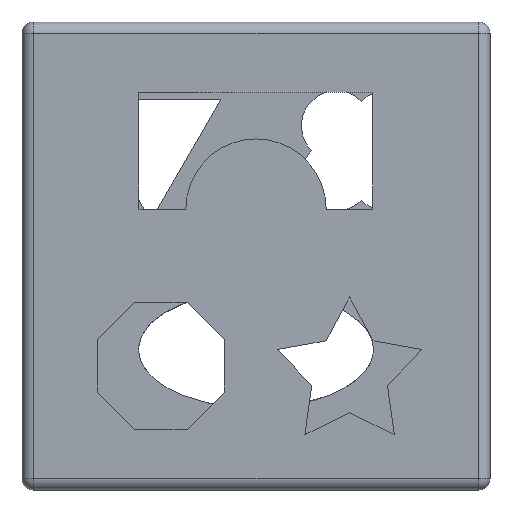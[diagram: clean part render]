
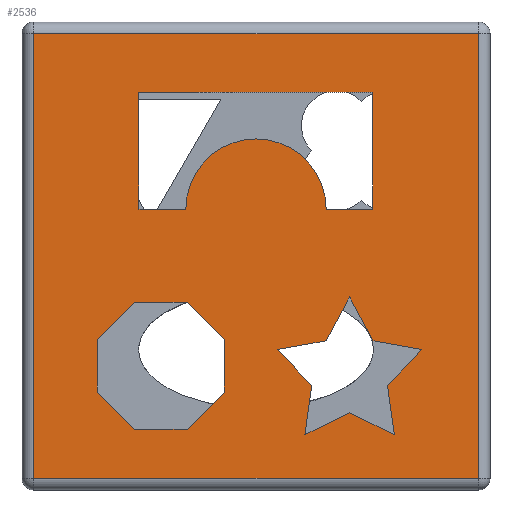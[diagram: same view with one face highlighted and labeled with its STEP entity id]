
A CAD part, left-side view. The second image highlights one B-rep face of the part: STEP entity #2536.
In plain terms, the highlighted planar face has unit normal (-1, 0, 0).
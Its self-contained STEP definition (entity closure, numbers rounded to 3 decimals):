
#24=FACE_BOUND('',#460,.T.);
#25=FACE_BOUND('',#461,.T.);
#26=FACE_BOUND('',#462,.T.);
#77=CIRCLE('',#2681,30.);
#192=PLANE('',#2737);
#321=FACE_OUTER_BOUND('',#459,.T.);
#459=EDGE_LOOP('',(#2115,#2116,#2117,#2118));
#460=EDGE_LOOP('',(#2119,#2120,#2121,#2122,#2123,#2124,#2125,#2126,#2127,
#2128));
#461=EDGE_LOOP('',(#2129,#2130,#2131,#2132,#2133,#2134,#2135,#2136));
#462=EDGE_LOOP('',(#2137,#2138,#2139,#2140,#2141,#2142));
#631=LINE('',#3734,#936);
#635=LINE('',#3742,#940);
#638=LINE('',#3748,#943);
#641=LINE('',#3754,#946);
#644=LINE('',#3760,#949);
#647=LINE('',#3766,#952);
#650=LINE('',#3772,#955);
#653=LINE('',#3778,#958);
#656=LINE('',#3784,#961);
#659=LINE('',#3789,#964);
#661=LINE('',#3794,#966);
#665=LINE('',#3802,#970);
#668=LINE('',#3808,#973);
#671=LINE('',#3814,#976);
#674=LINE('',#3820,#979);
#677=LINE('',#3826,#982);
#680=LINE('',#3832,#985);
#683=LINE('',#3837,#988);
#685=LINE('',#3842,#990);
#689=LINE('',#3850,#994);
#692=LINE('',#3856,#997);
#696=LINE('',#3868,#1001);
#699=LINE('',#3873,#1004);
#713=LINE('',#3953,#1018);
#716=LINE('',#3957,#1021);
#722=LINE('',#3966,#1027);
#725=LINE('',#3974,#1030);
#936=VECTOR('',#3006,10.);
#940=VECTOR('',#3012,10.);
#943=VECTOR('',#3017,10.);
#946=VECTOR('',#3022,10.);
#949=VECTOR('',#3027,10.);
#952=VECTOR('',#3032,10.);
#955=VECTOR('',#3037,10.);
#958=VECTOR('',#3042,10.);
#961=VECTOR('',#3047,10.);
#964=VECTOR('',#3052,10.);
#966=VECTOR('',#3056,10.);
#970=VECTOR('',#3062,10.);
#973=VECTOR('',#3067,10.);
#976=VECTOR('',#3072,10.);
#979=VECTOR('',#3077,10.);
#982=VECTOR('',#3082,10.);
#985=VECTOR('',#3087,10.);
#988=VECTOR('',#3092,10.);
#990=VECTOR('',#3096,10.);
#994=VECTOR('',#3102,10.);
#997=VECTOR('',#3107,10.);
#1001=VECTOR('',#3119,10.);
#1004=VECTOR('',#3124,10.);
#1018=VECTOR('',#3218,10.);
#1021=VECTOR('',#3223,10.);
#1027=VECTOR('',#3235,10.);
#1030=VECTOR('',#3244,10.);
#1224=VERTEX_POINT('',#3732);
#1225=VERTEX_POINT('',#3733);
#1228=VERTEX_POINT('',#3741);
#1230=VERTEX_POINT('',#3747);
#1232=VERTEX_POINT('',#3753);
#1234=VERTEX_POINT('',#3759);
#1236=VERTEX_POINT('',#3765);
#1238=VERTEX_POINT('',#3771);
#1240=VERTEX_POINT('',#3777);
#1242=VERTEX_POINT('',#3783);
#1244=VERTEX_POINT('',#3792);
#1245=VERTEX_POINT('',#3793);
#1248=VERTEX_POINT('',#3801);
#1250=VERTEX_POINT('',#3807);
#1252=VERTEX_POINT('',#3813);
#1254=VERTEX_POINT('',#3819);
#1256=VERTEX_POINT('',#3825);
#1258=VERTEX_POINT('',#3831);
#1260=VERTEX_POINT('',#3840);
#1261=VERTEX_POINT('',#3841);
#1264=VERTEX_POINT('',#3849);
#1266=VERTEX_POINT('',#3855);
#1268=VERTEX_POINT('',#3861);
#1270=VERTEX_POINT('',#3867);
#1272=VERTEX_POINT('',#3876);
#1276=VERTEX_POINT('',#3884);
#1280=VERTEX_POINT('',#3893);
#1288=VERTEX_POINT('',#3915);
#1495=EDGE_CURVE('',#1224,#1225,#631,.T.);
#1499=EDGE_CURVE('',#1228,#1224,#635,.T.);
#1502=EDGE_CURVE('',#1230,#1228,#638,.T.);
#1505=EDGE_CURVE('',#1232,#1230,#641,.T.);
#1508=EDGE_CURVE('',#1234,#1232,#644,.T.);
#1511=EDGE_CURVE('',#1236,#1234,#647,.T.);
#1514=EDGE_CURVE('',#1238,#1236,#650,.T.);
#1517=EDGE_CURVE('',#1240,#1238,#653,.T.);
#1520=EDGE_CURVE('',#1242,#1240,#656,.T.);
#1523=EDGE_CURVE('',#1225,#1242,#659,.T.);
#1525=EDGE_CURVE('',#1244,#1245,#661,.T.);
#1529=EDGE_CURVE('',#1248,#1244,#665,.T.);
#1532=EDGE_CURVE('',#1250,#1248,#668,.T.);
#1535=EDGE_CURVE('',#1252,#1250,#671,.T.);
#1538=EDGE_CURVE('',#1254,#1252,#674,.T.);
#1541=EDGE_CURVE('',#1256,#1254,#677,.T.);
#1544=EDGE_CURVE('',#1258,#1256,#680,.T.);
#1547=EDGE_CURVE('',#1245,#1258,#683,.T.);
#1549=EDGE_CURVE('',#1260,#1261,#685,.T.);
#1553=EDGE_CURVE('',#1264,#1260,#689,.T.);
#1556=EDGE_CURVE('',#1266,#1264,#692,.T.);
#1559=EDGE_CURVE('',#1268,#1266,#77,.T.);
#1562=EDGE_CURVE('',#1270,#1268,#696,.T.);
#1565=EDGE_CURVE('',#1261,#1270,#699,.T.);
#1604=EDGE_CURVE('',#1276,#1288,#713,.T.);
#1607=EDGE_CURVE('',#1288,#1280,#716,.T.);
#1613=EDGE_CURVE('',#1280,#1272,#722,.T.);
#1617=EDGE_CURVE('',#1272,#1276,#725,.T.);
#2115=ORIENTED_EDGE('',*,*,#1604,.F.);
#2116=ORIENTED_EDGE('',*,*,#1617,.F.);
#2117=ORIENTED_EDGE('',*,*,#1613,.F.);
#2118=ORIENTED_EDGE('',*,*,#1607,.F.);
#2119=ORIENTED_EDGE('',*,*,#1495,.T.);
#2120=ORIENTED_EDGE('',*,*,#1523,.T.);
#2121=ORIENTED_EDGE('',*,*,#1520,.T.);
#2122=ORIENTED_EDGE('',*,*,#1517,.T.);
#2123=ORIENTED_EDGE('',*,*,#1514,.T.);
#2124=ORIENTED_EDGE('',*,*,#1511,.T.);
#2125=ORIENTED_EDGE('',*,*,#1508,.T.);
#2126=ORIENTED_EDGE('',*,*,#1505,.T.);
#2127=ORIENTED_EDGE('',*,*,#1502,.T.);
#2128=ORIENTED_EDGE('',*,*,#1499,.T.);
#2129=ORIENTED_EDGE('',*,*,#1525,.T.);
#2130=ORIENTED_EDGE('',*,*,#1547,.T.);
#2131=ORIENTED_EDGE('',*,*,#1544,.T.);
#2132=ORIENTED_EDGE('',*,*,#1541,.T.);
#2133=ORIENTED_EDGE('',*,*,#1538,.T.);
#2134=ORIENTED_EDGE('',*,*,#1535,.T.);
#2135=ORIENTED_EDGE('',*,*,#1532,.T.);
#2136=ORIENTED_EDGE('',*,*,#1529,.T.);
#2137=ORIENTED_EDGE('',*,*,#1549,.T.);
#2138=ORIENTED_EDGE('',*,*,#1565,.T.);
#2139=ORIENTED_EDGE('',*,*,#1562,.T.);
#2140=ORIENTED_EDGE('',*,*,#1559,.T.);
#2141=ORIENTED_EDGE('',*,*,#1556,.T.);
#2142=ORIENTED_EDGE('',*,*,#1553,.T.);
#2536=ADVANCED_FACE('',(#321,#24,#25,#26),#192,.T.);
#2681=AXIS2_PLACEMENT_3D('',#3862,#3112,#3113);
#2737=AXIS2_PLACEMENT_3D('',#3999,#3266,#3267);
#3006=DIRECTION('',(0.,-0.471,-0.882));
#3012=DIRECTION('',(0.,-0.471,0.882));
#3017=DIRECTION('',(0.,-0.985,0.175));
#3022=DIRECTION('',(0.,0.694,0.72));
#3027=DIRECTION('',(0.,-0.138,0.99));
#3032=DIRECTION('',(0.,0.899,-0.437));
#3037=DIRECTION('',(0.,0.899,0.437));
#3042=DIRECTION('',(0.,-0.138,-0.99));
#3047=DIRECTION('',(0.,0.694,-0.72));
#3052=DIRECTION('',(0.,-0.985,-0.175));
#3056=DIRECTION('',(0.,0.,1.));
#3062=DIRECTION('',(0.,0.707,0.707));
#3067=DIRECTION('',(0.,1.,0.));
#3072=DIRECTION('',(0.,0.707,-0.707));
#3077=DIRECTION('',(0.,0.,-1.));
#3082=DIRECTION('',(0.,-0.707,-0.707));
#3087=DIRECTION('',(0.,-1.,0.));
#3092=DIRECTION('',(0.,-0.707,0.707));
#3096=DIRECTION('',(0.,-1.,0.));
#3102=DIRECTION('',(0.,0.,1.));
#3107=DIRECTION('',(0.,1.,0.));
#3112=DIRECTION('center_axis',(-1.,0.,0.));
#3113=DIRECTION('ref_axis',(0.,1.,0.001));
#3119=DIRECTION('',(0.,1.,0.));
#3124=DIRECTION('',(0.,0.,-1.));
#3218=DIRECTION('',(0.,1.,0.));
#3223=DIRECTION('',(0.,0.,1.));
#3235=DIRECTION('',(0.,-1.,0.));
#3244=DIRECTION('',(0.,0.,-1.));
#3266=DIRECTION('center_axis',(-1.,0.,0.));
#3267=DIRECTION('ref_axis',(0.,-1.,0.));
#3732=CARTESIAN_POINT('',(-100.,-40.,82.5));
#3733=CARTESIAN_POINT('',(-100.,-50.,63.764));
#3734=CARTESIAN_POINT('',(-100.,-41.616,79.473));
#3741=CARTESIAN_POINT('',(-100.,-30.,63.764));
#3742=CARTESIAN_POINT('',(-100.,-2.345,11.95));
#3747=CARTESIAN_POINT('',(-100.,-9.091,60.043));
#3748=CARTESIAN_POINT('',(-100.,48.959,49.713));
#3753=CARTESIAN_POINT('',(-100.,-23.82,44.743));
#3754=CARTESIAN_POINT('',(-100.,-5.22,64.064));
#3759=CARTESIAN_POINT('',(-100.,-20.897,23.707));
#3760=CARTESIAN_POINT('',(-100.,-18.136,3.838));
#3765=CARTESIAN_POINT('',(-100.,-40.,32.987));
#3766=CARTESIAN_POINT('',(-100.,23.117,2.325));
#3771=CARTESIAN_POINT('',(-100.,-59.103,23.707));
#3772=CARTESIAN_POINT('',(-100.,0.601,52.71));
#3777=CARTESIAN_POINT('',(-100.,-56.18,44.743));
#3778=CARTESIAN_POINT('',(-100.,-57.751,33.439));
#3783=CARTESIAN_POINT('',(-100.,-70.909,60.043));
#3784=CARTESIAN_POINT('',(-100.,-14.807,1.765));
#3789=CARTESIAN_POINT('',(-100.,17.199,75.722));
#3792=CARTESIAN_POINT('',(-100.,67.827,41.853));
#3793=CARTESIAN_POINT('',(-100.,67.827,64.353));
#3794=CARTESIAN_POINT('',(-100.,67.827,20.927));
#3801=CARTESIAN_POINT('',(-100.,51.917,25.944));
#3802=CARTESIAN_POINT('',(-100.,57.452,31.479));
#3807=CARTESIAN_POINT('',(-100.,29.417,25.944));
#3808=CARTESIAN_POINT('',(-100.,64.708,25.944));
#3813=CARTESIAN_POINT('',(-100.,13.507,41.853));
#3814=CARTESIAN_POINT('',(-100.,45.594,9.767));
#3819=CARTESIAN_POINT('',(-100.,13.507,64.353));
#3820=CARTESIAN_POINT('',(-100.,13.507,32.177));
#3825=CARTESIAN_POINT('',(-100.,29.417,80.263));
#3826=CARTESIAN_POINT('',(-100.,26.997,77.843));
#3831=CARTESIAN_POINT('',(-100.,51.917,80.263));
#3832=CARTESIAN_POINT('',(-100.,75.958,80.263));
#3837=CARTESIAN_POINT('',(-100.,91.958,40.222));
#3840=CARTESIAN_POINT('',(-100.,50.,170.));
#3841=CARTESIAN_POINT('',(-100.,-50.,170.));
#3842=CARTESIAN_POINT('',(-100.,75.,170.));
#3849=CARTESIAN_POINT('',(-100.,50.,120.));
#3850=CARTESIAN_POINT('',(-100.,50.,60.));
#3855=CARTESIAN_POINT('',(-100.,30.,120.));
#3856=CARTESIAN_POINT('',(-100.,65.,120.));
#3861=CARTESIAN_POINT('',(-100.,-30.,120.));
#3862=CARTESIAN_POINT('Origin',(-100.,0.,120.023));
#3867=CARTESIAN_POINT('',(-100.,-50.,120.));
#3868=CARTESIAN_POINT('',(-100.,25.,120.));
#3873=CARTESIAN_POINT('',(-100.,-50.,85.));
#3876=CARTESIAN_POINT('',(-100.,-95.,195.));
#3884=CARTESIAN_POINT('',(-100.,-95.,5.));
#3893=CARTESIAN_POINT('',(-100.,95.,195.));
#3915=CARTESIAN_POINT('',(-100.,95.,5.));
#3953=CARTESIAN_POINT('',(-100.,50.,5.));
#3957=CARTESIAN_POINT('',(-100.,95.,0.));
#3966=CARTESIAN_POINT('',(-100.,50.,195.));
#3974=CARTESIAN_POINT('',(-100.,-95.,0.));
#3999=CARTESIAN_POINT('Origin',(-100.,100.,0.));
